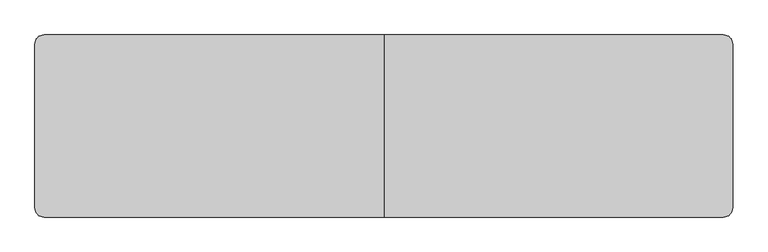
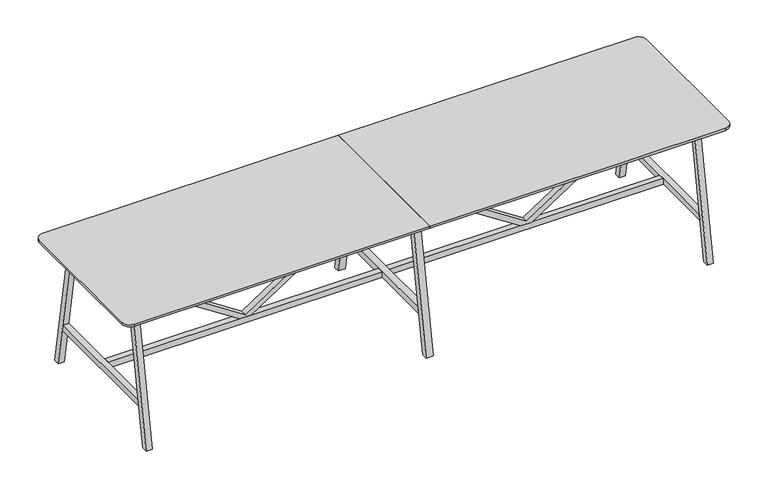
"""IFC4 building model written with IfcOpenShell, lengths in millimetres: furniture geometry, BDG_BossDesign_Tbls_AgentTables6Legs : AGE-HT-6L-4600-1200-3D."""

from ifc_helpers import new_model, si_unit, point, frame, frame_2d, origin, place, context, project, spatial, polyline, circle_curve, trimmed, segment, composite_curve, outline, extrude, source, transform, mapped, element, save


def furniture_46032078(model_context):
    return source(origin(), model_context, "Body", "SweptSolid", [
        extrude(outline(polyline([(345.0, 1024.0823957), (345.0, 1108.4176043), (992.0, 2105.0), (1032.0, 2105.0), (1032.0, 2085.0), (365.0, 1066.25), (1032.0, 47.5), (1032.0, 27.5), (992.0, 27.5), (345.0, 1024.0823957)])), frame((0.0, -22.5000305, 0.0), z_axis=(0.0, 1.0, 0.0), x_axis=(0.0, 0.0, 1.0)), (0.0, 0.0, 1.0), 45.000061),
        extrude(outline(polyline([(345.0, -1024.0823957), (992.0, -27.5), (1032.0, -27.5), (1032.0, -47.5), (365.0, -1066.25), (1032.0, -2085.0), (1032.0, -2105.0), (992.0, -2105.0), (345.0, -1108.4176043), (345.0, -1024.0823957)])), frame((0.0, -22.5000305, 0.0), z_axis=(0.0, 1.0, 0.0), x_axis=(0.0, 0.0, 1.0)), (0.0, 0.0, 1.0), 45.000061),
        extrude(outline(polyline([(600.0, 0.0), (554.9999949, 0.0), (385.5, 970.0), (430.5000051, 970.0), (600.0, 0.0)])), frame((-27.5, 0.0, 0.0), z_axis=(1.0, 0.0, 0.0), x_axis=(0.0, 1.0, 0.0)), (0.0, 0.0, 1.0), 55.0),
        extrude(outline(polyline([(-600.0, 0.0), (-430.5000051, 970.0), (-385.5, 970.0), (-554.9999949, 0.0), (-600.0, 0.0)])), frame((-27.5, 0.0, 0.0), z_axis=(1.0, 0.0, 0.0), x_axis=(0.0, 1.0, 0.0)), (0.0, 0.0, 1.0), 55.0),
        extrude(outline(polyline([(502.5773161, 300.0), (-502.5773161, 300.0), (-494.7139143, 345.0), (494.7139143, 345.0), (502.5773161, 300.0)])), frame((-27.5, 0.0, 0.0), z_axis=(1.0, 0.0, 0.0), x_axis=(0.0, 1.0, 0.0)), (0.0, 0.0, 1.0), 55.0),
        extrude(outline(composite_curve([segment(polyline([(0.0, 600.0), (0.0, -600.0), (-2240.0, -600.0)]), True, "CONTINUOUS"), segment(trimmed(circle_curve(frame_2d((-2240.0, -540.0)), 60.0), [point((-2240.0, -600.0))], [point((-2300.0, -540.0))], False, "CARTESIAN"), True, "CONTINUOUS"), segment(polyline([(-2300.0, -540.0), (-2300.0, 540.0)]), True, "CONTINUOUS"), segment(trimmed(circle_curve(frame_2d((-2240.0, 540.0)), 60.0), [point((-2300.0, 540.0))], [point((-2240.0, 600.0))], False, "CARTESIAN"), True, "CONTINUOUS"), segment(polyline([(-2240.0, 600.0), (0.0, 600.0)]), True, "CONTINUOUS")], self_intersect=False)), frame((0.0, 0.0, 1032.0), z_axis=(0.0, 0.0, 1.0), x_axis=(1.0, 0.0, 0.0)), (0.0, 0.0, 1.0), 18.0),
        extrude(outline(polyline([(-494.7139143, 345.0), (494.7139143, 345.0), (502.5773161, 300.0), (-502.5773161, 300.0), (-494.7139143, 345.0)])), frame((2105.0, 0.0, 0.0), z_axis=(1.0, 0.0, 0.0), x_axis=(0.0, 1.0, 0.0)), (0.0, 0.0, 1.0), 45.0),
        extrude(outline(polyline([(600.0, 0.0), (554.9999949, 0.0), (385.5, 970.0), (430.5000051, 970.0), (600.0, 0.0)])), frame((-2150.0, 0.0, 0.0), z_axis=(1.0, 0.0, 0.0), x_axis=(0.0, 1.0, 0.0)), (0.0, 0.0, 1.0), 45.0),
        extrude(outline(polyline([(-600.0, 0.0), (-430.5000051, 970.0), (-385.5, 970.0), (-554.9999949, 0.0), (-600.0, 0.0)])), frame((-2150.0, 0.0, 0.0), z_axis=(1.0, 0.0, 0.0), x_axis=(0.0, 1.0, 0.0)), (0.0, 0.0, 1.0), 45.0),
        extrude(outline(polyline([(-494.7139143, 345.0), (494.7139143, 345.0), (502.5773161, 300.0), (-502.5773161, 300.0), (-494.7139143, 345.0)])), frame((-2150.0, 0.0, 0.0), z_axis=(1.0, 0.0, 0.0), x_axis=(0.0, 1.0, 0.0)), (0.0, 0.0, 1.0), 45.0),
        extrude(outline(polyline([(-426.6006165, 944.973938), (-404.2770691, 1032.0), (-379.5, 1032.0), (-401.8235474, 944.973938), (-426.6006165, 944.973938)])), frame((-2105.0, 0.0, 0.0), z_axis=(1.0, 0.0, 0.0), x_axis=(0.0, 1.0, 0.0)), (0.0, 0.0, 1.0), 4210.0),
        extrude(outline(polyline([(426.6006165, 944.973938), (401.8235474, 944.973938), (379.5, 1032.0), (404.2770691, 1032.0), (426.6006165, 944.973938)])), frame((-2105.0, 0.0, 0.0), z_axis=(1.0, 0.0, 0.0), x_axis=(0.0, 1.0, 0.0)), (0.0, 0.0, 1.0), 4210.0),
        extrude(outline(polyline([(599.7999878, 0.0), (554.7999827, 0.0), (385.5, 970.0), (430.5000051, 970.0), (599.7999878, 0.0)])), frame((2105.0, 0.0, 0.0), z_axis=(1.0, 0.0, 0.0), x_axis=(0.0, 1.0, 0.0)), (0.0, 0.0, 1.0), 45.0),
        extrude(outline(polyline([(-599.7999878, 0.0), (-430.5000051, 970.0), (-385.5, 970.0), (-554.7999827, 0.0), (-599.7999878, 0.0)])), frame((2105.0, 0.0, 0.0), z_axis=(1.0, 0.0, 0.0), x_axis=(0.0, 1.0, 0.0)), (0.0, 0.0, 1.0), 45.0),
        extrude(outline(polyline([(-27.5, 22.5000305), (-27.5, -22.5000305), (-2105.0, -22.5000305), (-2105.0, 22.5000305), (-27.5, 22.5000305)])), frame((0.0, 0.0, 300.0), z_axis=(0.0, 0.0, 1.0), x_axis=(1.0, 0.0, 0.0)), (0.0, 0.0, 1.0), 45.0),
        extrude(outline(polyline([(27.5, -22.5000305), (27.5, 22.5000305), (2105.0, 22.5000305), (2105.0, -22.5000305), (27.5, -22.5000305)])), frame((0.0, 0.0, 300.0), z_axis=(0.0, 0.0, 1.0), x_axis=(1.0, 0.0, 0.0)), (0.0, 0.0, 1.0), 45.0),
        extrude(outline(composite_curve([segment(trimmed(circle_curve(frame_2d((2240.0, 540.0)), 60.0), [point((2240.0, 600.0))], [point((2300.0, 540.0))], False, "CARTESIAN"), True, "CONTINUOUS"), segment(polyline([(2300.0, 540.0), (2300.0, -540.0)]), True, "CONTINUOUS"), segment(trimmed(circle_curve(frame_2d((2240.0, -540.0)), 60.0), [point((2300.0, -540.0))], [point((2240.0, -600.0))], False, "CARTESIAN"), True, "CONTINUOUS"), segment(polyline([(2240.0, -600.0), (0.0, -600.0), (0.0, 600.0), (2240.0, 600.0)]), True, "CONTINUOUS")], self_intersect=False)), frame((0.0, 0.0, 1032.0), z_axis=(0.0, 0.0, 1.0), x_axis=(1.0, 0.0, 0.0)), (0.0, 0.0, 1.0), 18.0),
    ])


if __name__ == "__main__":
    model = new_model("IFC4")
    model_context = context("Model", 3, world=origin())
    ifc_project = project(units=[si_unit("LENGTHUNIT", "METRE", prefix="MILLI")], contexts=[model_context])
    site = spatial("IfcSite", under=ifc_project)
    building = spatial("IfcBuilding", under=site)
    placement = place(None, origin())
    furniture_shape = furniture_46032078(model_context)
    element("IfcFurniture", 1, ObjectType="BDG_BossDesign_Tbls_AgentTables6Legs : AGE-HT-6L-4600-1200-3D", at=placement, inside=building, context=model_context, shape_type="MappedRepresentation", body=[
        mapped(furniture_shape, transform((0.0, 0.0, 0.0), x_axis=(1.0, 0.0, 0.0), y_axis=(0.0, 1.0, 0.0), z_axis=(0.0, 0.0, 1.0))),
    ])
    save(model, "model.ifc")
